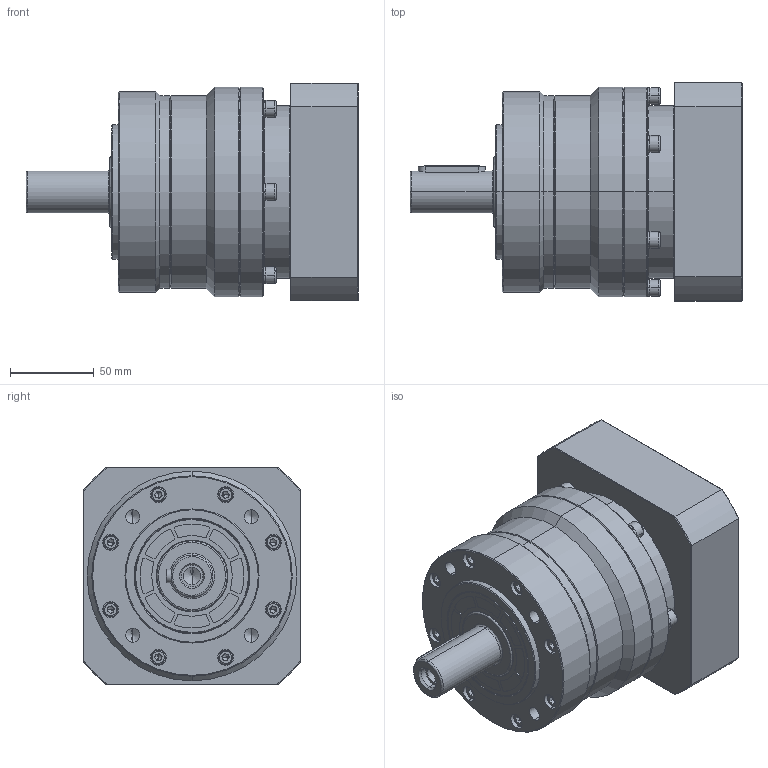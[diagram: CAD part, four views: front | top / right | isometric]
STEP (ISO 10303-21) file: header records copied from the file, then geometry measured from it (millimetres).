
FILE_DESCRIPTION (( 'STEP AP214' ), '1' );
FILE_NAME ('FE120-L1-S2-P2 24-110-145-M8.STEP', '2023-09-20T06:06:50', ( '微软用户' ), ( '微软中国' ), 'SwSTEP 2.0', 'SolidWorks 2018', '' );
FILE_SCHEMA (( 'AUTOMOTIVE_DESIGN' ));
Length unit declared in the file: millimetre
Products named in the file (1): FE120-L1-S2-P2 24-110-145-M8
Bounding box: 198 x 130 x 130 mm (x, y, z)
Volume: 1558697.7 mm3; surface area: 160944.2 mm2
Topology: 1 solids, 28 shells, 1330 faces, 3289 edges, 2056 vertices
Faces by surface type: plane 545, cylinder 510, bspline 138, cone 137
Entity records: 42807 total; most frequent: CARTESIAN_POINT 11536, DIRECTION 6753, ORIENTED_EDGE 6446, EDGE_CURVE 3223, AXIS2_PLACEMENT_3D 2663, VERTEX_POINT 2054, EDGE_LOOP 1503, CIRCLE 1470
